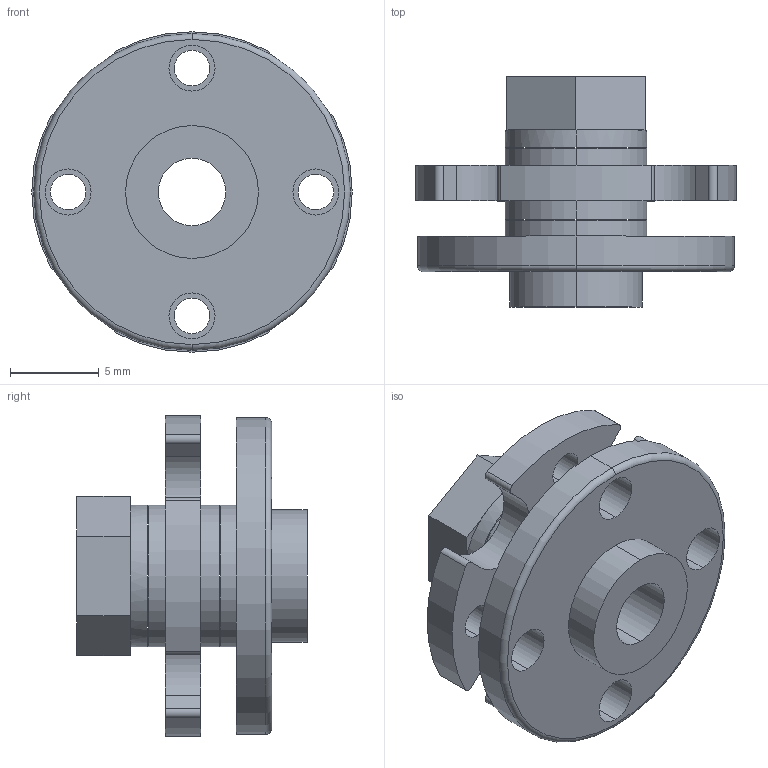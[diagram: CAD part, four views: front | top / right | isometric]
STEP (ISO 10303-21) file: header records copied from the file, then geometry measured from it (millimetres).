
FILE_DESCRIPTION (( 'STEP AP203' ), '1' );
FILE_NAME ('XG11-117.STEP', '2025-03-28T02:38:17', ( '微软用户' ), ( '微软中国' ), 'SwSTEP 2.0', 'SolidWorks 2024', '' );
FILE_SCHEMA (( 'CONFIG_CONTROL_DESIGN' ));
Length unit declared in the file: millimetre
Products named in the file (1): XG11-117
Bounding box: 18.1 x 13 x 18.1 mm (x, y, z)
Volume: 1121.3 mm3; surface area: 1619.1 mm2
Topology: 3 solids, 3 shells, 93 faces, 235 edges, 152 vertices
Faces by surface type: cylinder 55, plane 36, torus 2
Entity records: 2960 total; most frequent: DIRECTION 549, CARTESIAN_POINT 481, ORIENTED_EDGE 470, EDGE_CURVE 235, AXIS2_PLACEMENT_3D 220, VERTEX_POINT 152, CIRCLE 126, EDGE_LOOP 119
